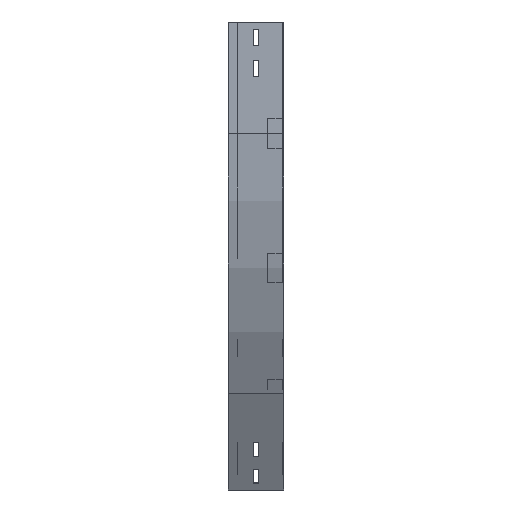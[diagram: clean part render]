
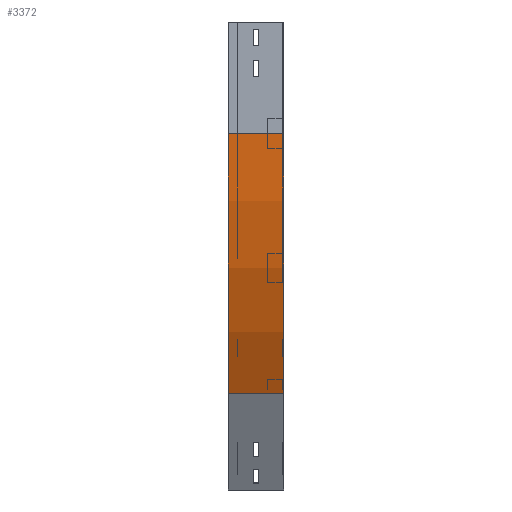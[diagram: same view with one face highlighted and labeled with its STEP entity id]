
A CAD part, left-side view. The second image highlights one B-rep face of the part: STEP entity #3372.
In plain terms, the highlighted cylindrical face has radius 700 mm (diameter 1400 mm), a partial arc.
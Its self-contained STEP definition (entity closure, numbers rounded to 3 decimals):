
#23 = CYLINDRICAL_SURFACE ( 'NONE', #2018, 700. ) ;
#38 = DIRECTION ( 'NONE',  ( 0., -1., 0. ) ) ;
#105 = CARTESIAN_POINT ( 'NONE',  ( 93.782, 75., -500. ) ) ;
#171 = LINE ( 'NONE', #1986, #491 ) ;
#240 = VERTEX_POINT ( 'NONE', #631 ) ;
#259 = DIRECTION ( 'NONE',  ( -1., 0., 0. ) ) ;
#351 = ORIENTED_EDGE ( 'NONE', *, *, #2166, .T. ) ;
#491 = VECTOR ( 'NONE', #3202, 1000. ) ;
#631 = CARTESIAN_POINT ( 'NONE',  ( 0., 0., -150. ) ) ;
#647 = EDGE_CURVE ( 'NONE', #2808, #3497, #2360, .T. ) ;
#757 = EDGE_CURVE ( 'NONE', #2808, #240, #2701, .T. ) ;
#826 = DIRECTION ( 'NONE',  ( 0., -1., 0. ) ) ;
#982 = DIRECTION ( 'NONE',  ( 0., -1., 0. ) ) ;
#1433 = EDGE_LOOP ( 'NONE', ( #2871, #3458, #3806, #351 ) ) ;
#1585 = DIRECTION ( 'NONE',  ( -1., 0., 0. ) ) ;
#1628 = CARTESIAN_POINT ( 'NONE',  ( 93.782, 0., -500. ) ) ;
#1721 = CARTESIAN_POINT ( 'NONE',  ( 700., 0., -150. ) ) ;
#1840 = EDGE_CURVE ( 'NONE', #240, #3737, #3611, .T. ) ;
#1986 = CARTESIAN_POINT ( 'NONE',  ( 93.782, 0., -500. ) ) ;
#2018 = AXIS2_PLACEMENT_3D ( 'NONE', #2028, #826, #2926 ) ;
#2028 = CARTESIAN_POINT ( 'NONE',  ( 700., 0., -150. ) ) ;
#2166 = EDGE_CURVE ( 'NONE', #3497, #3737, #171, .T. ) ;
#2312 = CARTESIAN_POINT ( 'NONE',  ( 0., 75., -150. ) ) ;
#2348 = CARTESIAN_POINT ( 'NONE',  ( 0., 0., -150. ) ) ;
#2360 = CIRCLE ( 'NONE', #2485, 700. ) ;
#2485 = AXIS2_PLACEMENT_3D ( 'NONE', #2720, #982, #1585 ) ;
#2701 = LINE ( 'NONE', #2348, #3056 ) ;
#2703 = FACE_OUTER_BOUND ( 'NONE', #1433, .T. ) ;
#2720 = CARTESIAN_POINT ( 'NONE',  ( 700., 75., -150. ) ) ;
#2808 = VERTEX_POINT ( 'NONE', #2312 ) ;
#2871 = ORIENTED_EDGE ( 'NONE', *, *, #1840, .F. ) ;
#2926 = DIRECTION ( 'NONE',  ( 0., 0., -1. ) ) ;
#2930 = DIRECTION ( 'NONE',  ( 0., -1., 0. ) ) ;
#3056 = VECTOR ( 'NONE', #38, 1000. ) ;
#3202 = DIRECTION ( 'NONE',  ( 0., -1., 0. ) ) ;
#3235 = AXIS2_PLACEMENT_3D ( 'NONE', #1721, #2930, #259 ) ;
#3372 = ADVANCED_FACE ( 'NONE', ( #2703 ), #23, .T. ) ;
#3458 = ORIENTED_EDGE ( 'NONE', *, *, #757, .F. ) ;
#3497 = VERTEX_POINT ( 'NONE', #105 ) ;
#3611 = CIRCLE ( 'NONE', #3235, 700. ) ;
#3737 = VERTEX_POINT ( 'NONE', #1628 ) ;
#3806 = ORIENTED_EDGE ( 'NONE', *, *, #647, .T. ) ;
